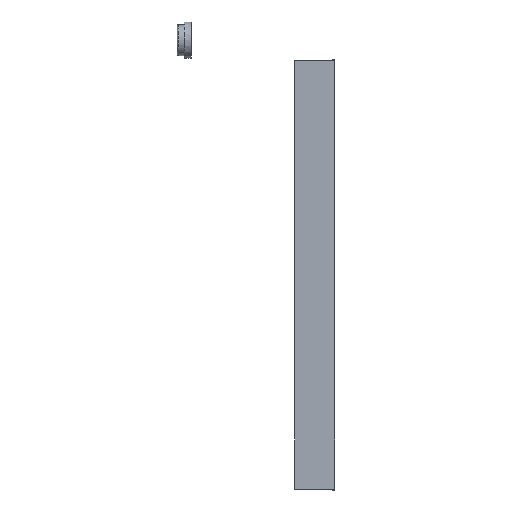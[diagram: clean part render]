
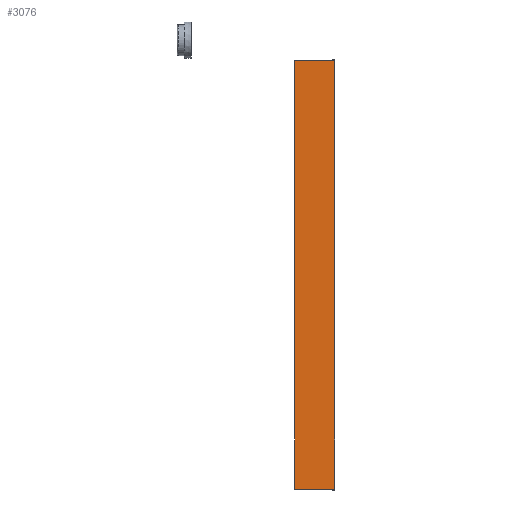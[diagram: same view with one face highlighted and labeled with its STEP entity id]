
A CAD part, left-side view. The second image highlights one B-rep face of the part: STEP entity #3076.
In plain terms, the highlighted planar face has unit normal (-1, 0, 0).
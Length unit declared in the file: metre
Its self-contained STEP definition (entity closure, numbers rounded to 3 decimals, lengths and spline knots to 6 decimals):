
#108=PLANE('',#3349);
#245=FACE_OUTER_BOUND('',#422,.T.);
#422=EDGE_LOOP('',(#2409,#2410,#2411,#2412));
#770=LINE('',#4696,#1103);
#792=LINE('',#4789,#1125);
#794=LINE('',#4796,#1127);
#795=LINE('',#4797,#1128);
#1103=VECTOR('',#3801,0.1094);
#1125=VECTOR('',#3869,0.1094);
#1127=VECTOR('',#3877,1.184);
#1128=VECTOR('',#3878,1.184);
#1441=VERTEX_POINT('',#4693);
#1442=VERTEX_POINT('',#4695);
#1477=VERTEX_POINT('',#4786);
#1478=VERTEX_POINT('',#4788);
#1784=EDGE_CURVE('',#1441,#1442,#770,.T.);
#1828=EDGE_CURVE('',#1478,#1477,#792,.T.);
#1832=EDGE_CURVE('',#1441,#1478,#794,.T.);
#1833=EDGE_CURVE('',#1477,#1442,#795,.F.);
#2409=ORIENTED_EDGE('',*,*,#1784,.F.);
#2410=ORIENTED_EDGE('',*,*,#1832,.T.);
#2411=ORIENTED_EDGE('',*,*,#1828,.T.);
#2412=ORIENTED_EDGE('',*,*,#1833,.T.);
#3076=ADVANCED_FACE('',(#245),#108,.F.);
#3349=AXIS2_PLACEMENT_3D('',#4795,#3875,#3876);
#3801=DIRECTION('',(0.,1.,0.));
#3869=DIRECTION('',(0.,1.,0.));
#3875=DIRECTION('center_axis',(1.,0.,0.));
#3876=DIRECTION('ref_axis',(0.,0.,-1.));
#3877=DIRECTION('',(0.,0.,1.));
#3878=DIRECTION('',(0.,0.,1.));
#4693=CARTESIAN_POINT('',(-0.0225,0.0003,-0.592));
#4695=CARTESIAN_POINT('',(-0.0225,0.1097,-0.592));
#4696=CARTESIAN_POINT('',(-0.0225,0.0003,-0.592));
#4786=CARTESIAN_POINT('',(-0.0225,0.1097,0.592));
#4788=CARTESIAN_POINT('',(-0.0225,0.0003,0.592));
#4789=CARTESIAN_POINT('',(-0.0225,0.0003,0.592));
#4795=CARTESIAN_POINT('Origin',(-0.0225,0.,-0.592));
#4796=CARTESIAN_POINT('',(-0.0225,0.0003,-0.592));
#4797=CARTESIAN_POINT('',(-0.0225,0.1097,-0.592));
